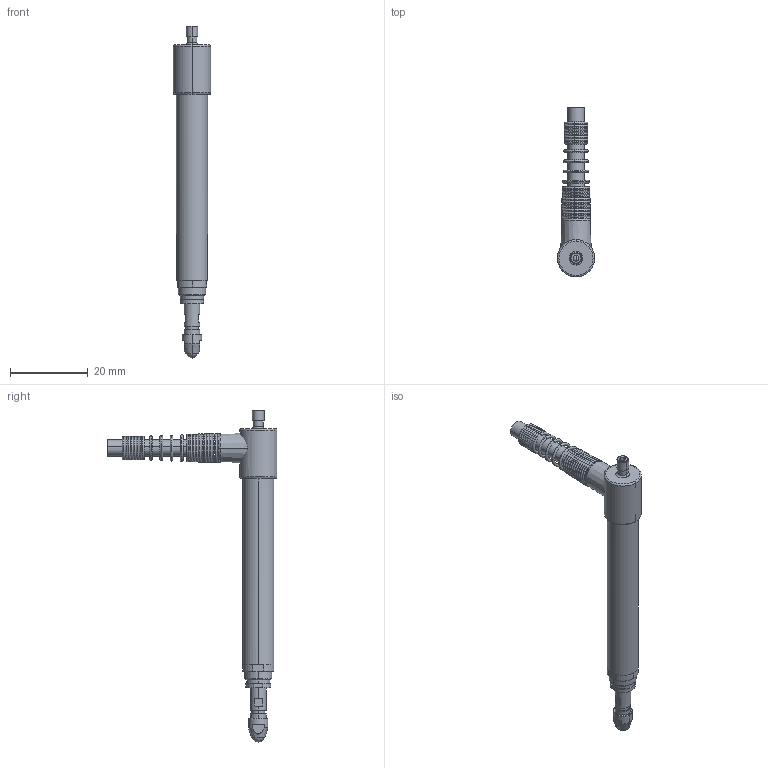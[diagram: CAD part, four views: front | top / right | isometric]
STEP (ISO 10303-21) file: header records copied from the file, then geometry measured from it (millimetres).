
FILE_DESCRIPTION (( 'STEP AP214' ), '1' );
FILE_NAME ('DP-S4VA_exterior.STEP', '2015-10-07T10:40:41', ( 'ysgoodman' ), ( '' ), 'SwSTEP 2.0', 'SolidWorks 2014', '' );
FILE_SCHEMA (( 'AUTOMOTIVE_DESIGN' ));
Length unit declared in the file: millimetre
Products named in the file (1): DP-S4VA_exterior
Bounding box: 9.6 x 43.7 x 85.41 mm (x, y, z)
Surface area: 4587.1 mm2 (no closed solid volume)
Topology: 0 solids, 42 shells, 218 faces, 691 edges, 493 vertices
Faces by surface type: torus 106, cylinder 55, plane 39, cone 11, bspline 5, sphere 2
Entity records: 11964 total; most frequent: CARTESIAN_POINT 3421, DIRECTION 1365, ORIENTED_EDGE 1106, EDGE_CURVE 686, AXIS2_PLACEMENT_3D 579, VERTEX_POINT 490, CIRCLE 365, EDGE_LOOP 261
